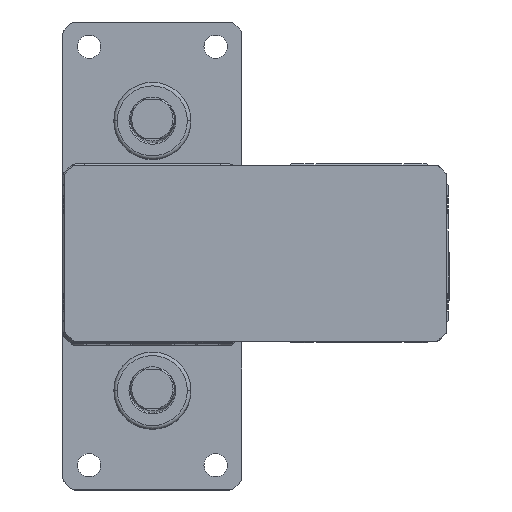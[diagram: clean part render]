
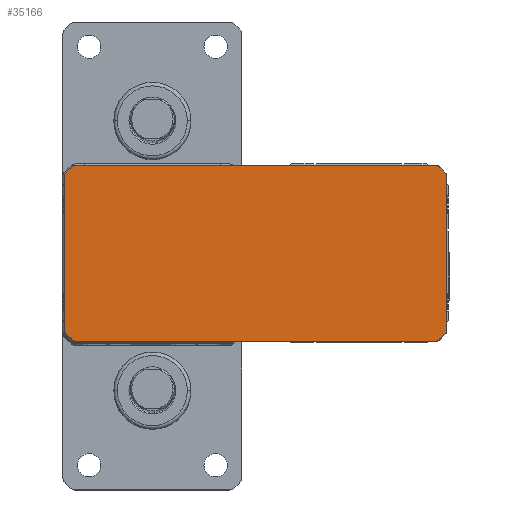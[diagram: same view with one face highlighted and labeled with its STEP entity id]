
A CAD part, top view. The second image highlights one B-rep face of the part: STEP entity #35166.
In plain terms, the highlighted planar face has unit normal (0, 0, 1).
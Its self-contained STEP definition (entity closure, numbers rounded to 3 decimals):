
#18 = AXIS2_PLACEMENT_3D ( 'NONE', #30621, #6411, #34630 ) ;
#60 = CARTESIAN_POINT ( 'NONE',  ( 106.561, 29.061, 544. ) ) ;
#239 = LINE ( 'NONE', #30123, #42036 ) ;
#931 = VECTOR ( 'NONE', #41867, 1000. ) ;
#2537 = VERTEX_POINT ( 'NONE', #12590 ) ;
#2547 = EDGE_CURVE ( 'NONE', #46193, #50700, #6014, .T. ) ;
#3232 = EDGE_CURVE ( 'NONE', #2537, #45059, #37496, .T. ) ;
#3950 = DIRECTION ( 'NONE',  ( 0., 0., 1. ) ) ;
#4156 = DIRECTION ( 'NONE',  ( -0.707, 0.707, 0. ) ) ;
#4397 = AXIS2_PLACEMENT_3D ( 'NONE', #28209, #3950, #32243 ) ;
#4746 = EDGE_CURVE ( 'NONE', #39595, #38649, #24715, .T. ) ;
#4950 = ORIENTED_EDGE ( 'NONE', *, *, #39861, .T. ) ;
#5902 = DIRECTION ( 'NONE',  ( 0., 1., 0. ) ) ;
#6014 = CIRCLE ( 'NONE', #16239, 1.5 ) ;
#6276 = VERTEX_POINT ( 'NONE', #24105 ) ;
#6411 = DIRECTION ( 'NONE',  ( 0., 0., 1. ) ) ;
#6875 = AXIS2_PLACEMENT_3D ( 'NONE', #15833, #43995, #19904 ) ;
#7215 = VERTEX_POINT ( 'NONE', #25967 ) ;
#7620 = ORIENTED_EDGE ( 'NONE', *, *, #17369, .T. ) ;
#7782 = AXIS2_PLACEMENT_3D ( 'NONE', #47273, #23159, #51300 ) ;
#7820 = VERTEX_POINT ( 'NONE', #29960 ) ;
#7849 = EDGE_CURVE ( 'NONE', #6276, #30399, #239, .T. ) ;
#9199 = EDGE_CURVE ( 'NONE', #50700, #7820, #9720, .T. ) ;
#9337 = ORIENTED_EDGE ( 'NONE', *, *, #2547, .T. ) ;
#9436 = CARTESIAN_POINT ( 'NONE',  ( 104.061, -31.561, 544. ) ) ;
#9644 = VERTEX_POINT ( 'NONE', #51019 ) ;
#9720 = LINE ( 'NONE', #11966, #31162 ) ;
#10689 = ORIENTED_EDGE ( 'NONE', *, *, #25198, .T. ) ;
#10770 = CIRCLE ( 'NONE', #45725, 1.5 ) ;
#11437 = CARTESIAN_POINT ( 'NONE',  ( -32., 28., 544. ) ) ;
#11592 = CARTESIAN_POINT ( 'NONE',  ( -28., -30.5, 544. ) ) ;
#11655 = DIRECTION ( 'NONE',  ( 1., 0., 0. ) ) ;
#11718 = DIRECTION ( 'NONE',  ( 0., 0., 1. ) ) ;
#11777 = CARTESIAN_POINT ( 'NONE',  ( -30.5, -28., 544. ) ) ;
#11966 = CARTESIAN_POINT ( 'NONE',  ( -31.561, -29.061, 544. ) ) ;
#12590 = CARTESIAN_POINT ( 'NONE',  ( -31.561, 29.061, 544. ) ) ;
#13486 = DIRECTION ( 'NONE',  ( 0., 0., 1. ) ) ;
#14480 = VERTEX_POINT ( 'NONE', #51625 ) ;
#14794 = LINE ( 'NONE', #9436, #43127 ) ;
#15588 = ORIENTED_EDGE ( 'NONE', *, *, #3232, .T. ) ;
#15667 = DIRECTION ( 'NONE',  ( 1., 0., 0. ) ) ;
#15833 = CARTESIAN_POINT ( 'NONE',  ( 103., 30.5, 544. ) ) ;
#16185 = LINE ( 'NONE', #34726, #47062 ) ;
#16239 = AXIS2_PLACEMENT_3D ( 'NONE', #11777, #11718, #11655 ) ;
#17369 = EDGE_CURVE ( 'NONE', #45059, #46193, #43420, .T. ) ;
#18068 = CARTESIAN_POINT ( 'NONE',  ( 105.5, -28., 544. ) ) ;
#18141 = EDGE_CURVE ( 'NONE', #38649, #2537, #33209, .T. ) ;
#18273 = DIRECTION ( 'NONE',  ( 0., 0., 1. ) ) ;
#19182 = ORIENTED_EDGE ( 'NONE', *, *, #38497, .T. ) ;
#19526 = CARTESIAN_POINT ( 'NONE',  ( -28., 32., 544. ) ) ;
#19885 = VECTOR ( 'NONE', #42857, 1000. ) ;
#19894 = EDGE_CURVE ( 'NONE', #30399, #49644, #41216, .T. ) ;
#19904 = DIRECTION ( 'NONE',  ( 1., 0., 0. ) ) ;
#20148 = CARTESIAN_POINT ( 'NONE',  ( 103., 32., 544. ) ) ;
#20236 = CIRCLE ( 'NONE', #6875, 1.5 ) ;
#20562 = ORIENTED_EDGE ( 'NONE', *, *, #34707, .T. ) ;
#21326 = ORIENTED_EDGE ( 'NONE', *, *, #9199, .T. ) ;
#22133 = DIRECTION ( 'NONE',  ( 1., 0., 0. ) ) ;
#23159 = DIRECTION ( 'NONE',  ( 0., 0., 1. ) ) ;
#23680 = FACE_OUTER_BOUND ( 'NONE', #50410, .T. ) ;
#23712 = VERTEX_POINT ( 'NONE', #29600 ) ;
#24105 = CARTESIAN_POINT ( 'NONE',  ( 107., -28., 544. ) ) ;
#24715 = CIRCLE ( 'NONE', #4397, 1.5 ) ;
#24992 = CIRCLE ( 'NONE', #18, 1.5 ) ;
#25198 = EDGE_CURVE ( 'NONE', #7820, #14480, #10770, .T. ) ;
#25209 = EDGE_CURVE ( 'NONE', #28860, #26611, #20236, .T. ) ;
#25938 = CARTESIAN_POINT ( 'NONE',  ( -32., 28., 544. ) ) ;
#25967 = CARTESIAN_POINT ( 'NONE',  ( 104.061, -31.561, 544. ) ) ;
#26611 = VERTEX_POINT ( 'NONE', #20148 ) ;
#26859 = CARTESIAN_POINT ( 'NONE',  ( -28., -32., 544. ) ) ;
#28146 = EDGE_CURVE ( 'NONE', #14480, #9644, #50747, .T. ) ;
#28209 = CARTESIAN_POINT ( 'NONE',  ( -28., 30.5, 544. ) ) ;
#28582 = CARTESIAN_POINT ( 'NONE',  ( -31.561, -29.061, 544. ) ) ;
#28860 = VERTEX_POINT ( 'NONE', #41838 ) ;
#29600 = CARTESIAN_POINT ( 'NONE',  ( 106.561, -29.061, 544. ) ) ;
#29960 = CARTESIAN_POINT ( 'NONE',  ( -29.061, -31.561, 544. ) ) ;
#30123 = CARTESIAN_POINT ( 'NONE',  ( 107., -28., 544. ) ) ;
#30228 = CARTESIAN_POINT ( 'NONE',  ( -32., -28., 544. ) ) ;
#30399 = VERTEX_POINT ( 'NONE', #32667 ) ;
#30569 = EDGE_CURVE ( 'NONE', #23712, #6276, #48064, .T. ) ;
#30621 = CARTESIAN_POINT ( 'NONE',  ( 103., -30.5, 544. ) ) ;
#31162 = VECTOR ( 'NONE', #44200, 1000. ) ;
#31433 = VECTOR ( 'NONE', #43674, 1000. ) ;
#31975 = AXIS2_PLACEMENT_3D ( 'NONE', #42388, #18273, #46427 ) ;
#32075 = ORIENTED_EDGE ( 'NONE', *, *, #4746, .T. ) ;
#32243 = DIRECTION ( 'NONE',  ( 1., 0., 0. ) ) ;
#32667 = CARTESIAN_POINT ( 'NONE',  ( 107., 28., 544. ) ) ;
#33143 = ORIENTED_EDGE ( 'NONE', *, *, #36515, .T. ) ;
#33209 = LINE ( 'NONE', #37791, #931 ) ;
#34630 = DIRECTION ( 'NONE',  ( 1., 0., 0. ) ) ;
#34707 = EDGE_CURVE ( 'NONE', #9644, #7215, #24992, .T. ) ;
#34726 = CARTESIAN_POINT ( 'NONE',  ( 103., 32., 544. ) ) ;
#34768 = ORIENTED_EDGE ( 'NONE', *, *, #30569, .T. ) ;
#35005 = AXIS2_PLACEMENT_3D ( 'NONE', #45516, #13486, #41663 ) ;
#35053 = ORIENTED_EDGE ( 'NONE', *, *, #25209, .T. ) ;
#35166 = ADVANCED_FACE ( 'NONE', ( #23680 ), #37580, .T. ) ;
#36515 = EDGE_CURVE ( 'NONE', #49644, #28860, #42819, .T. ) ;
#37233 = ORIENTED_EDGE ( 'NONE', *, *, #28146, .T. ) ;
#37443 = CARTESIAN_POINT ( 'NONE',  ( 106.561, 29.061, 544. ) ) ;
#37496 = CIRCLE ( 'NONE', #7782, 1.5 ) ;
#37580 = PLANE ( 'NONE',  #35005 ) ;
#37615 = DIRECTION ( 'NONE',  ( 0.707, 0.707, 0. ) ) ;
#37791 = CARTESIAN_POINT ( 'NONE',  ( -29.061, 31.561, 544. ) ) ;
#38497 = EDGE_CURVE ( 'NONE', #26611, #39595, #16185, .T. ) ;
#38649 = VERTEX_POINT ( 'NONE', #51760 ) ;
#38790 = DIRECTION ( 'NONE',  ( -1., 0., 0. ) ) ;
#39595 = VERTEX_POINT ( 'NONE', #19526 ) ;
#39779 = DIRECTION ( 'NONE',  ( 0., 0., 1. ) ) ;
#39847 = AXIS2_PLACEMENT_3D ( 'NONE', #18068, #46223, #22133 ) ;
#39861 = EDGE_CURVE ( 'NONE', #7215, #23712, #14794, .T. ) ;
#41216 = CIRCLE ( 'NONE', #31975, 1.5 ) ;
#41663 = DIRECTION ( 'NONE',  ( 1., 0., 0. ) ) ;
#41838 = CARTESIAN_POINT ( 'NONE',  ( 104.061, 31.561, 544. ) ) ;
#41867 = DIRECTION ( 'NONE',  ( -0.707, -0.707, 0. ) ) ;
#42036 = VECTOR ( 'NONE', #5902, 1000. ) ;
#42388 = CARTESIAN_POINT ( 'NONE',  ( 105.5, 28., 544. ) ) ;
#42819 = LINE ( 'NONE', #60, #49723 ) ;
#42857 = DIRECTION ( 'NONE',  ( 1., 0., 0. ) ) ;
#43127 = VECTOR ( 'NONE', #37615, 1000. ) ;
#43420 = LINE ( 'NONE', #11437, #31433 ) ;
#43674 = DIRECTION ( 'NONE',  ( 0., -1., 0. ) ) ;
#43995 = DIRECTION ( 'NONE',  ( 0., 0., 1. ) ) ;
#44200 = DIRECTION ( 'NONE',  ( 0.707, -0.707, 0. ) ) ;
#45059 = VERTEX_POINT ( 'NONE', #25938 ) ;
#45227 = ORIENTED_EDGE ( 'NONE', *, *, #18141, .T. ) ;
#45516 = CARTESIAN_POINT ( 'NONE',  ( -30.5, -28., 544. ) ) ;
#45725 = AXIS2_PLACEMENT_3D ( 'NONE', #11592, #39779, #15667 ) ;
#46193 = VERTEX_POINT ( 'NONE', #30228 ) ;
#46223 = DIRECTION ( 'NONE',  ( 0., 0., 1. ) ) ;
#46406 = ORIENTED_EDGE ( 'NONE', *, *, #7849, .T. ) ;
#46427 = DIRECTION ( 'NONE',  ( 1., 0., 0. ) ) ;
#47062 = VECTOR ( 'NONE', #38790, 1000. ) ;
#47273 = CARTESIAN_POINT ( 'NONE',  ( -30.5, 28., 544. ) ) ;
#48064 = CIRCLE ( 'NONE', #39847, 1.5 ) ;
#49644 = VERTEX_POINT ( 'NONE', #37443 ) ;
#49723 = VECTOR ( 'NONE', #4156, 1000. ) ;
#50410 = EDGE_LOOP ( 'NONE', ( #9337, #21326, #10689, #37233, #20562, #4950, #34768, #46406, #51753, #33143, #35053, #19182, #32075, #45227, #15588, #7620 ) ) ;
#50700 = VERTEX_POINT ( 'NONE', #28582 ) ;
#50747 = LINE ( 'NONE', #26859, #19885 ) ;
#51019 = CARTESIAN_POINT ( 'NONE',  ( 103., -32., 544. ) ) ;
#51300 = DIRECTION ( 'NONE',  ( 1., 0., 0. ) ) ;
#51625 = CARTESIAN_POINT ( 'NONE',  ( -28., -32., 544. ) ) ;
#51753 = ORIENTED_EDGE ( 'NONE', *, *, #19894, .T. ) ;
#51760 = CARTESIAN_POINT ( 'NONE',  ( -29.061, 31.561, 544. ) ) ;
